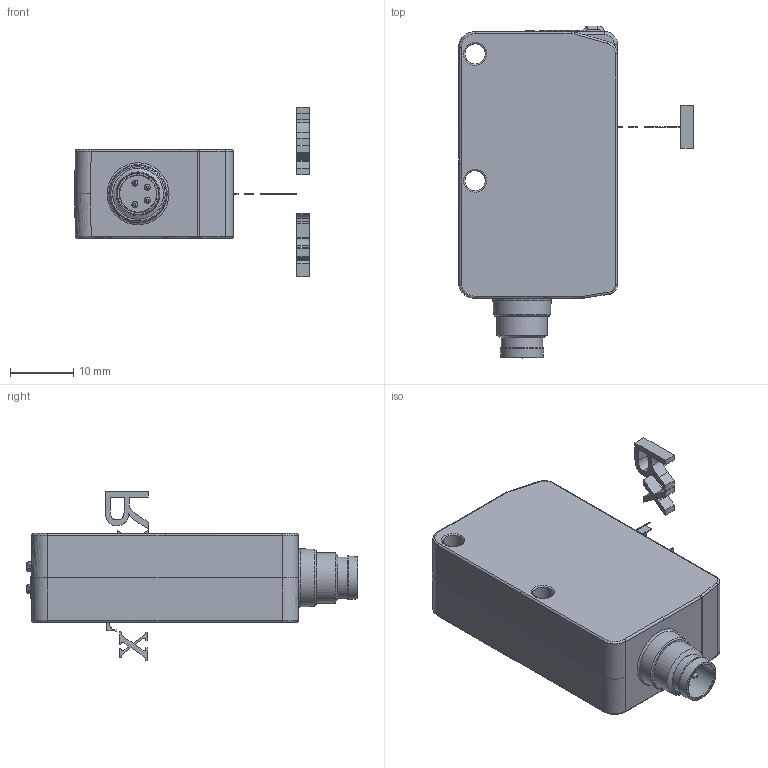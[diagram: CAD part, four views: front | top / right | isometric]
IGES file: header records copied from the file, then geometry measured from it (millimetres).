
Global section: file name: D:\igs\DSD-0142.igs; preprocessor: I-DEAS 3D IGES Translator 11; date: 20080507.165144; units: millimetre
Bounding box: 37 x 52.3 x 26.68 mm (x, y, z)
Volume: 14767.1 mm3; surface area: 5125.8 mm2
Topology: 7 solids, 7 shells, 461 faces, 1145 edges, 712 vertices
Faces by surface type: bspline 461
